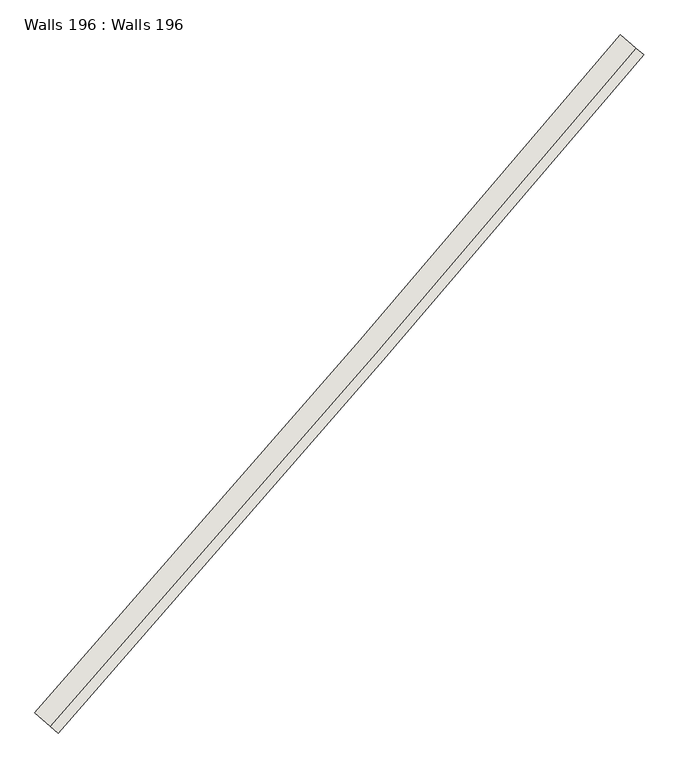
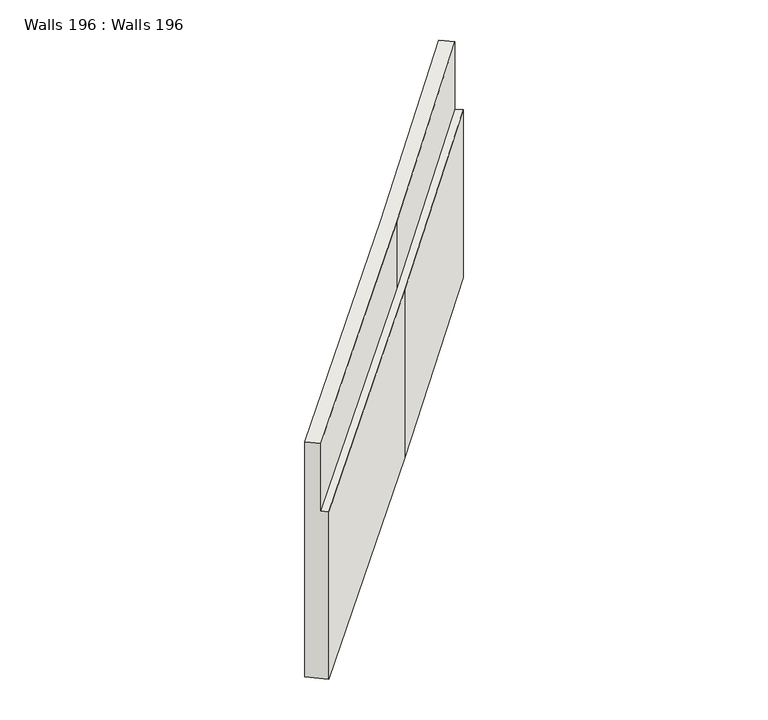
"""IFC4 building model written with IfcOpenShell, lengths in millimetres: wall geometry, Walls 196 : Walls 196."""

from ifc_helpers import new_model, si_unit, frame, origin, place, context, project, spatial, polyline, circle_curve, source, transform, mapped, element, save
from ifc_brep_helpers import plane_surface, cylinder_surface, revolved_surface, advanced_brep


def walls_196_walls_196_bc01d6aa(model_context):
    return source(origin(), model_context, "Body", "AdvancedBrep", [
        advanced_brep(
        [(554375.6017629, 462971.7138181, 658067.0), (554375.6017629, 462971.7138181, 654567.0), (554601.6085878, 462774.429974, 654567.0), (554601.6085878, 462774.429974, 657067.0), (554526.2729795, 462840.1912554, 657067.0), (554526.2729795, 462840.1912554, 658067.0), (557533.7838605, 466589.7024655, 658067.0), (557533.7838605, 466589.7024655, 654567.0), (557759.7906854, 466392.4186215, 657067.0), (560294.2700903, 469362.0074197, 657067.0), (560217.4886866, 469426.0746972, 657067.0), (557684.4550773, 466458.1799027, 657067.0), (557684.4550771, 466458.1799028, 658067.0), (560217.4886866, 469426.0746972, 658067.0), (560063.9258792, 469554.2092521, 658067.0), (557759.7906854, 466392.4186215, 654567.0), (560063.9258792, 469554.2092521, 654567.0), (560294.2700903, 469362.0074197, 654567.0)],
        [
            (0, 1),
            (1, 2),
            (2, 3),
            (3, 4),
            (4, 5),
            (5, 0),
            (0, 6),
            (6, 7),
            (7, 1),
            (3, 8),
            (8, 9, circle_curve(frame((425696.469057, 581671.9451099, 657067.0), z_axis=(0.0, 0.0, 1.0), x_axis=(0.7533560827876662, -0.6576128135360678, 0.0)), 175300.0004192)),
            (9, 10),
            (10, 11, circle_curve(frame((425696.469057, 581671.9451099, 657067.0), z_axis=(0.0, 0.0, -1.0), x_axis=(0.7533560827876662, -0.6576128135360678, 0.0)), 175200.0004192)),
            (11, 4),
            (5, 12),
            (12, 13, circle_curve(frame((425696.469057, 581671.9451099, 658067.0), z_axis=(0.0, 0.0, 1.0), x_axis=(0.7533560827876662, -0.6576128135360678, 0.0)), 175200.0004192)),
            (13, 14),
            (14, 6, circle_curve(frame((425696.469057, 581671.9451099, 658067.0), z_axis=(0.0, 0.0, -1.0), x_axis=(0.7533560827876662, -0.6576128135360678, 0.0)), 175000.0004192)),
            (2, 15),
            (15, 8),
            (11, 12),
            (7, 16, circle_curve(frame((425696.469057, 581671.9451099, 654567.0), z_axis=(0.0, 0.0, 1.0), x_axis=(0.7533560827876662, -0.6576128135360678, 0.0)), 175000.0004192)),
            (16, 17),
            (17, 15, circle_curve(frame((425696.469057, 581671.9451099, 654567.0), z_axis=(0.0, 0.0, -1.0), x_axis=(0.7533560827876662, -0.6576128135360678, 0.0)), 175300.0004192)),
            (13, 10),
            (9, 17),
            (16, 14),
        ],
        [
            plane_surface(frame((554375.6017629, 462971.7138181, 0.0), z_axis=(-0.6576128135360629, -0.7533560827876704, 0.0), x_axis=(0.0, 0.0, 1.0))),
            plane_surface(frame((554375.6017629, 462971.7138181, 658067.0), z_axis=(-0.7533560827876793, 0.6576128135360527, 0.0), x_axis=(0.6576128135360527, 0.7533560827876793, 0.0))),
            plane_surface(frame((554601.6085878, 462774.429974, 657067.0), z_axis=(0.0, 0.0, 1.0), x_axis=(0.6576128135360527, 0.7533560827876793, 0.0))),
            plane_surface(frame((554526.2729795, 462840.1912554, 658067.0), z_axis=(0.0, 0.0, 1.0), x_axis=(0.6576128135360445, 0.7533560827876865, 0.0))),
            plane_surface(frame((554601.6085878, 462774.429974, 654567.0), z_axis=(0.7533560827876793, -0.6576128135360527, 0.0), x_axis=(0.6576128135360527, 0.7533560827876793, 0.0))),
            plane_surface(frame((554526.2729795, 462840.1912554, 657067.0), z_axis=(0.7533560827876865, -0.6576128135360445, 0.0), x_axis=(0.6576128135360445, 0.7533560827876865, 0.0))),
            plane_surface(frame((554375.6017629, 462971.7138181, 654567.0), z_axis=(0.0, 0.0, -1.0), x_axis=(0.6576128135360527, 0.7533560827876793, 0.0))),
            plane_surface(frame((560063.9258792, 469554.2092521, 0.0), z_axis=(0.6406727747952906, 0.7678140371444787, 0.0), x_axis=(0.0, 0.0, 1.0))),
            revolved_surface(polyline([(557533.7838606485, 466589.7024654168, 658067.0), (557533.7838606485, 466589.7024654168, 654567.0)]), (425696.469057, 581671.9451099, 0.0), (0.0, 0.0, 1.0)),
            cylinder_surface(frame((425696.469057, 581671.9451099, 0.0), z_axis=(0.0, 0.0, 1.0), x_axis=(0.7533560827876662, -0.6576128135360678, 0.0)), 175300.0004192),
            cylinder_surface(frame((425696.469057, 581671.9451099, 0.0), z_axis=(0.0, 0.0, 1.0), x_axis=(0.7533560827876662, -0.6576128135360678, 0.0)), 175200.0004192),
        ],
        [
            (0, [[1, 2, 3, 4, 5, 6]]),
            (1, [[-1, 7, 8, 9]]),
            (2, [[-4, 10, 11, 12, 13, 14]]),
            (3, [[-6, 15, 16, 17, 18, -7]]),
            (4, [[-3, 19, 20, -10]]),
            (5, [[-5, -14, 21, -15]]),
            (6, [[-2, -9, 22, 23, 24, -19]]),
            (7, [[-17, 25, -12, 26, -23, 27]]),
            (8, [[-22, -8, -18, -27]]),
            (9, [[-11, -20, -24, -26]]),
            (10, [[-16, -21, -13, -25]]),
        ],
    ),
    ])


if __name__ == "__main__":
    model = new_model("IFC4")
    model_context = context("Model", 3, world=origin())
    ifc_project = project(units=[si_unit("LENGTHUNIT", "METRE", prefix="MILLI")], contexts=[model_context])
    site = spatial("IfcSite", under=ifc_project)
    building = spatial("IfcBuilding", under=site)
    placement = place(None, origin())
    walls_196_walls_196_shape = walls_196_walls_196_bc01d6aa(model_context)
    element("IfcWall", 1, ObjectType="Walls 196 : Walls 196", at=placement, inside=building, context=model_context, shape_type="MappedRepresentation", body=[
        mapped(walls_196_walls_196_shape, transform((0.0, 0.0, 0.0), x_axis=(1.0, 0.0, 0.0), y_axis=(0.0, 1.0, 0.0), z_axis=(0.0, 0.0, 1.0))),
    ])
    save(model, "model.ifc")
